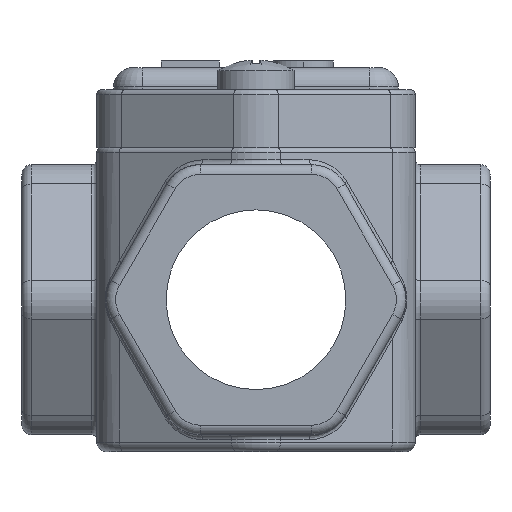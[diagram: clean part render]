
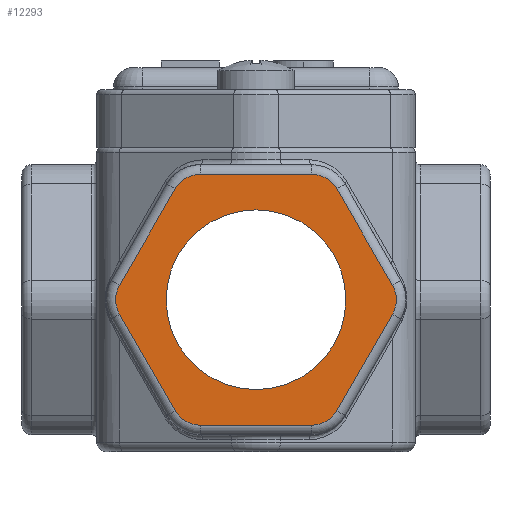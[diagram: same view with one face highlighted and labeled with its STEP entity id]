
A CAD part, left-side view. The second image highlights one B-rep face of the part: STEP entity #12293.
In plain terms, the highlighted planar face has unit normal (-1, 0, 0).
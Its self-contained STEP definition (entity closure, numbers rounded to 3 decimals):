
#173 = CIRCLE ( 'NONE', #1202, 3. ) ;
#223 = VERTEX_POINT ( 'NONE', #15446 ) ;
#246 = DIRECTION ( 'NONE',  ( 0., 0.5, -0.866 ) ) ;
#429 = ORIENTED_EDGE ( 'NONE', *, *, #5651, .F. ) ;
#467 = CARTESIAN_POINT ( 'NONE',  ( -91.315, -12.766, -17.533 ) ) ;
#740 = DIRECTION ( 'NONE',  ( 1., 0., 0. ) ) ;
#746 = AXIS2_PLACEMENT_3D ( 'NONE', #1456, #5208, #246 ) ;
#854 = ORIENTED_EDGE ( 'NONE', *, *, #1568, .F. ) ;
#955 = CARTESIAN_POINT ( 'NONE',  ( -91.315, -15.364, 6.967 ) ) ;
#1075 = CIRCLE ( 'NONE', #15860, 3. ) ;
#1141 = CARTESIAN_POINT ( 'NONE',  ( -91.315, -16.807, -13.533 ) ) ;
#1202 = AXIS2_PLACEMENT_3D ( 'NONE', #6205, #13578, #8613 ) ;
#1403 = VERTEX_POINT ( 'NONE', #10733 ) ;
#1456 = CARTESIAN_POINT ( 'NONE',  ( -91.315, -1.219, -14.533 ) ) ;
#1463 = VERTEX_POINT ( 'NONE', #9056 ) ;
#1568 = EDGE_CURVE ( 'NONE', #7530, #1463, #11162, .T. ) ;
#1571 = AXIS2_PLACEMENT_3D ( 'NONE', #6923, #740, #11807 ) ;
#1946 = EDGE_CURVE ( 'NONE', #1403, #13540, #1960, .T. ) ;
#1960 = LINE ( 'NONE', #7521, #14665 ) ;
#2384 = DIRECTION ( 'NONE',  ( 0., 0.5, -0.866 ) ) ;
#2421 = VECTOR ( 'NONE', #12665, 1000. ) ;
#2451 = CARTESIAN_POINT ( 'NONE',  ( -91.315, 7.153, -3.033 ) ) ;
#2503 = EDGE_CURVE ( 'NONE', #13540, #12469, #173, .T. ) ;
#2591 = VECTOR ( 'NONE', #15322, 1000. ) ;
#2775 = CARTESIAN_POINT ( 'NONE',  ( -91.315, -1.219, 8.467 ) ) ;
#2979 = LINE ( 'NONE', #15266, #2591 ) ;
#3003 = CARTESIAN_POINT ( 'NONE',  ( -91.315, -21.137, -6.033 ) ) ;
#4034 = ORIENTED_EDGE ( 'NONE', *, *, #5536, .F. ) ;
#4068 = VERTEX_POINT ( 'NONE', #3003 ) ;
#4132 = CIRCLE ( 'NONE', #15752, 9.316 ) ;
#4441 = ORIENTED_EDGE ( 'NONE', *, *, #2503, .F. ) ;
#5014 = CIRCLE ( 'NONE', #5268, 3. ) ;
#5053 = CARTESIAN_POINT ( 'NONE',  ( -91.315, -6.992, 4.782 ) ) ;
#5208 = DIRECTION ( 'NONE',  ( 1., 0., 0. ) ) ;
#5268 = AXIS2_PLACEMENT_3D ( 'NONE', #13285, #9541, #5919 ) ;
#5323 = DIRECTION ( 'NONE',  ( 1., 0., 0. ) ) ;
#5436 = ORIENTED_EDGE ( 'NONE', *, *, #15442, .F. ) ;
#5536 = EDGE_CURVE ( 'NONE', #10798, #4068, #1075, .T. ) ;
#5651 = EDGE_CURVE ( 'NONE', #9937, #10798, #2979, .T. ) ;
#5769 = FACE_BOUND ( 'NONE', #11629, .T. ) ;
#5909 = EDGE_LOOP ( 'NONE', ( #13080, #8339, #5436, #11000, #8741, #4034, #429, #14033, #854, #15238, #11436, #4441 ) ) ;
#5919 = DIRECTION ( 'NONE',  ( 0., -0.5, 0.866 ) ) ;
#6116 = VERTEX_POINT ( 'NONE', #12301 ) ;
#6205 = CARTESIAN_POINT ( 'NONE',  ( -91.315, 4.555, -4.533 ) ) ;
#6451 = CARTESIAN_POINT ( 'NONE',  ( -91.315, -18.539, -4.533 ) ) ;
#6641 = ORIENTED_EDGE ( 'NONE', *, *, #15202, .T. ) ;
#6722 = CIRCLE ( 'NONE', #1571, 3. ) ;
#6923 = CARTESIAN_POINT ( 'NONE',  ( -91.315, -12.766, -14.533 ) ) ;
#7126 = CIRCLE ( 'NONE', #746, 3. ) ;
#7169 = DIRECTION ( 'NONE',  ( 0., 0., -1. ) ) ;
#7182 = CARTESIAN_POINT ( 'NONE',  ( -91.315, -9.879, 8.467 ) ) ;
#7234 = CIRCLE ( 'NONE', #9750, 3. ) ;
#7297 = CARTESIAN_POINT ( 'NONE',  ( -91.315, -1.219, -17.533 ) ) ;
#7521 = CARTESIAN_POINT ( 'NONE',  ( -91.315, 5.71, -8.533 ) ) ;
#7530 = VERTEX_POINT ( 'NONE', #2775 ) ;
#7708 = DIRECTION ( 'NONE',  ( 0., -1., 0. ) ) ;
#8036 = CARTESIAN_POINT ( 'NONE',  ( -91.315, -6.992, -4.533 ) ) ;
#8270 = DIRECTION ( 'NONE',  ( 0., 0.5, 0.866 ) ) ;
#8339 = ORIENTED_EDGE ( 'NONE', *, *, #9426, .F. ) ;
#8393 = DIRECTION ( 'NONE',  ( 0., -0.5, 0.866 ) ) ;
#8613 = DIRECTION ( 'NONE',  ( 0., 1., 0. ) ) ;
#8704 = DIRECTION ( 'NONE',  ( 0., 0.5, 0.866 ) ) ;
#8735 = VERTEX_POINT ( 'NONE', #5053 ) ;
#8741 = ORIENTED_EDGE ( 'NONE', *, *, #12635, .F. ) ;
#8843 = EDGE_CURVE ( 'NONE', #1463, #9937, #5014, .T. ) ;
#8865 = CARTESIAN_POINT ( 'NONE',  ( -91.315, -21.137, -3.033 ) ) ;
#9056 = CARTESIAN_POINT ( 'NONE',  ( -91.315, -12.766, 8.467 ) ) ;
#9255 = VECTOR ( 'NONE', #15803, 1000. ) ;
#9426 = EDGE_CURVE ( 'NONE', #13328, #1403, #7126, .T. ) ;
#9541 = DIRECTION ( 'NONE',  ( 1., 0., 0. ) ) ;
#9651 = PLANE ( 'NONE',  #13161 ) ;
#9750 = AXIS2_PLACEMENT_3D ( 'NONE', #13044, #10689, #8270 ) ;
#9765 = EDGE_CURVE ( 'NONE', #6116, #11385, #6722, .T. ) ;
#9774 = LINE ( 'NONE', #1141, #11298 ) ;
#9937 = VERTEX_POINT ( 'NONE', #955 ) ;
#10081 = LINE ( 'NONE', #15780, #11227 ) ;
#10170 = CARTESIAN_POINT ( 'NONE',  ( -91.315, -4.105, -17.533 ) ) ;
#10689 = DIRECTION ( 'NONE',  ( 1., 0., 0. ) ) ;
#10733 = CARTESIAN_POINT ( 'NONE',  ( -91.315, 1.379, -16.033 ) ) ;
#10756 = CARTESIAN_POINT ( 'NONE',  ( -91.315, -6.992, -4.533 ) ) ;
#10798 = VERTEX_POINT ( 'NONE', #8865 ) ;
#10861 = LINE ( 'NONE', #10170, #2421 ) ;
#11000 = ORIENTED_EDGE ( 'NONE', *, *, #9765, .F. ) ;
#11162 = LINE ( 'NONE', #7182, #9255 ) ;
#11227 = VECTOR ( 'NONE', #8393, 1000. ) ;
#11298 = VECTOR ( 'NONE', #2384, 1000. ) ;
#11385 = VERTEX_POINT ( 'NONE', #467 ) ;
#11436 = ORIENTED_EDGE ( 'NONE', *, *, #15906, .F. ) ;
#11629 = EDGE_LOOP ( 'NONE', ( #6641 ) ) ;
#11807 = DIRECTION ( 'NONE',  ( 0., -0.5, -0.866 ) ) ;
#12293 = ADVANCED_FACE ( 'NONE', ( #5769, #15571 ), #9651, .F. ) ;
#12301 = CARTESIAN_POINT ( 'NONE',  ( -91.315, -15.364, -16.033 ) ) ;
#12469 = VERTEX_POINT ( 'NONE', #2451 ) ;
#12635 = EDGE_CURVE ( 'NONE', #4068, #6116, #9774, .T. ) ;
#12665 = DIRECTION ( 'NONE',  ( 0., 1., 0. ) ) ;
#13044 = CARTESIAN_POINT ( 'NONE',  ( -91.315, -1.219, 5.467 ) ) ;
#13080 = ORIENTED_EDGE ( 'NONE', *, *, #1946, .F. ) ;
#13161 = AXIS2_PLACEMENT_3D ( 'NONE', #10756, #14506, #7169 ) ;
#13285 = CARTESIAN_POINT ( 'NONE',  ( -91.315, -12.766, 5.467 ) ) ;
#13328 = VERTEX_POINT ( 'NONE', #7297 ) ;
#13540 = VERTEX_POINT ( 'NONE', #14713 ) ;
#13578 = DIRECTION ( 'NONE',  ( 1., 0., 0. ) ) ;
#14033 = ORIENTED_EDGE ( 'NONE', *, *, #8843, .F. ) ;
#14202 = DIRECTION ( 'NONE',  ( 1., 0., 0. ) ) ;
#14506 = DIRECTION ( 'NONE',  ( 1., 0., 0. ) ) ;
#14665 = VECTOR ( 'NONE', #8704, 1000. ) ;
#14713 = CARTESIAN_POINT ( 'NONE',  ( -91.315, 7.153, -6.033 ) ) ;
#14724 = EDGE_CURVE ( 'NONE', #223, #7530, #7234, .T. ) ;
#15202 = EDGE_CURVE ( 'NONE', #8735, #8735, #4132, .T. ) ;
#15238 = ORIENTED_EDGE ( 'NONE', *, *, #14724, .F. ) ;
#15266 = CARTESIAN_POINT ( 'NONE',  ( -91.315, -19.694, -0.533 ) ) ;
#15317 = DIRECTION ( 'NONE',  ( 0., 0., 1. ) ) ;
#15322 = DIRECTION ( 'NONE',  ( 0., -0.5, -0.866 ) ) ;
#15442 = EDGE_CURVE ( 'NONE', #11385, #13328, #10861, .T. ) ;
#15446 = CARTESIAN_POINT ( 'NONE',  ( -91.315, 1.379, 6.967 ) ) ;
#15571 = FACE_OUTER_BOUND ( 'NONE', #5909, .T. ) ;
#15752 = AXIS2_PLACEMENT_3D ( 'NONE', #8036, #14202, #15317 ) ;
#15780 = CARTESIAN_POINT ( 'NONE',  ( -91.315, 2.823, 4.467 ) ) ;
#15803 = DIRECTION ( 'NONE',  ( 0., -1., 0. ) ) ;
#15860 = AXIS2_PLACEMENT_3D ( 'NONE', #6451, #5323, #7708 ) ;
#15906 = EDGE_CURVE ( 'NONE', #12469, #223, #10081, .T. ) ;
